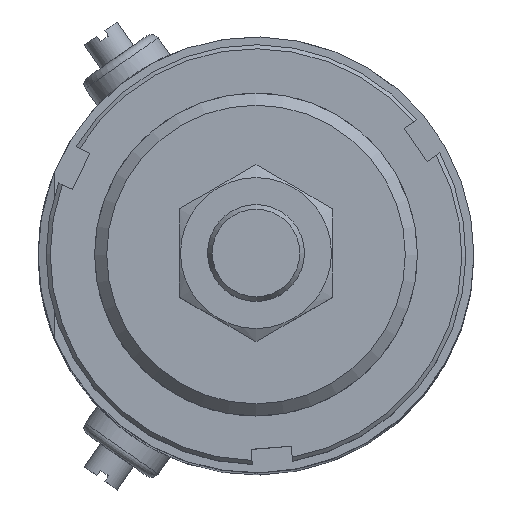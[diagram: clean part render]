
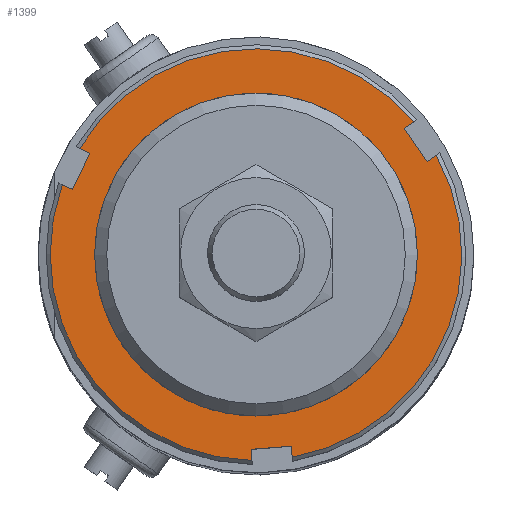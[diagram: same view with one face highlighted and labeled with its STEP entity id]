
A CAD part, top view. The second image highlights one B-rep face of the part: STEP entity #1399.
In plain terms, the highlighted planar face has unit normal (0, 0, 1).
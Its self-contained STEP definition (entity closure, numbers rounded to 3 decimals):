
#136=LINE('',#2399,#200);
#140=LINE('',#2410,#204);
#142=LINE('',#2423,#206);
#146=LINE('',#2436,#210);
#150=LINE('',#2447,#214);
#152=LINE('',#2460,#216);
#157=LINE('',#2489,#221);
#158=LINE('',#2491,#222);
#159=LINE('',#2493,#223);
#200=VECTOR('',#1917,1.377);
#204=VECTOR('',#1923,5.);
#206=VECTOR('',#1927,1.377);
#210=VECTOR('',#1933,1.377);
#214=VECTOR('',#1939,5.);
#216=VECTOR('',#1943,1.377);
#221=VECTOR('',#1972,1.377);
#222=VECTOR('',#1973,5.);
#223=VECTOR('',#1974,1.377);
#286=PLANE('',#1574);
#347=FACE_BOUND('',#564,.T.);
#348=FACE_BOUND('',#565,.T.);
#564=EDGE_LOOP('',(#1234));
#565=EDGE_LOOP('',(#1235,#1236,#1237,#1238,#1239,#1240,#1241,#1242,#1243,
#1244,#1245,#1246));
#643=CIRCLE('',#1575,20.);
#644=CIRCLE('',#1576,25.5);
#645=CIRCLE('',#1577,25.5);
#646=CIRCLE('',#1578,25.5);
#745=VERTEX_POINT('',#2396);
#746=VERTEX_POINT('',#2398);
#749=VERTEX_POINT('',#2408);
#753=VERTEX_POINT('',#2419);
#757=VERTEX_POINT('',#2433);
#758=VERTEX_POINT('',#2435);
#761=VERTEX_POINT('',#2445);
#765=VERTEX_POINT('',#2456);
#772=VERTEX_POINT('',#2484);
#773=VERTEX_POINT('',#2486);
#774=VERTEX_POINT('',#2488);
#775=VERTEX_POINT('',#2490);
#776=VERTEX_POINT('',#2492);
#898=EDGE_CURVE('',#746,#745,#136,.T.);
#903=EDGE_CURVE('',#745,#749,#140,.T.);
#907=EDGE_CURVE('',#749,#753,#142,.T.);
#912=EDGE_CURVE('',#758,#757,#146,.T.);
#917=EDGE_CURVE('',#757,#761,#150,.T.);
#921=EDGE_CURVE('',#761,#765,#152,.T.);
#933=EDGE_CURVE('',#772,#772,#643,.T.);
#934=EDGE_CURVE('',#773,#753,#644,.T.);
#935=EDGE_CURVE('',#773,#774,#157,.T.);
#936=EDGE_CURVE('',#774,#775,#158,.T.);
#937=EDGE_CURVE('',#775,#776,#159,.T.);
#938=EDGE_CURVE('',#758,#776,#645,.T.);
#939=EDGE_CURVE('',#746,#765,#646,.T.);
#1234=ORIENTED_EDGE('',*,*,#933,.T.);
#1235=ORIENTED_EDGE('',*,*,#898,.T.);
#1236=ORIENTED_EDGE('',*,*,#903,.T.);
#1237=ORIENTED_EDGE('',*,*,#907,.T.);
#1238=ORIENTED_EDGE('',*,*,#934,.F.);
#1239=ORIENTED_EDGE('',*,*,#935,.T.);
#1240=ORIENTED_EDGE('',*,*,#936,.T.);
#1241=ORIENTED_EDGE('',*,*,#937,.T.);
#1242=ORIENTED_EDGE('',*,*,#938,.F.);
#1243=ORIENTED_EDGE('',*,*,#912,.T.);
#1244=ORIENTED_EDGE('',*,*,#917,.T.);
#1245=ORIENTED_EDGE('',*,*,#921,.T.);
#1246=ORIENTED_EDGE('',*,*,#939,.F.);
#1399=ADVANCED_FACE('',(#347,#348),#286,.T.);
#1574=AXIS2_PLACEMENT_3D('',#2483,#1966,#1967);
#1575=AXIS2_PLACEMENT_3D('',#2485,#1968,#1969);
#1576=AXIS2_PLACEMENT_3D('',#2487,#1970,#1971);
#1577=AXIS2_PLACEMENT_3D('',#2494,#1975,#1976);
#1578=AXIS2_PLACEMENT_3D('',#2495,#1977,#1978);
#1917=DIRECTION('',(0.866,-0.5,0.));
#1923=DIRECTION('',(-0.5,-0.866,0.));
#1927=DIRECTION('',(-0.866,0.5,0.));
#1933=DIRECTION('',(-0.866,-0.5,0.));
#1939=DIRECTION('',(-0.5,0.866,0.));
#1943=DIRECTION('',(0.866,0.5,0.));
#1966=DIRECTION('center_axis',(0.,0.,1.));
#1967=DIRECTION('ref_axis',(1.,0.,0.));
#1968=DIRECTION('center_axis',(0.,0.,-1.));
#1969=DIRECTION('ref_axis',(-1.,0.,0.));
#1970=DIRECTION('center_axis',(0.,0.,-1.));
#1971=DIRECTION('ref_axis',(-1.,0.,0.));
#1972=DIRECTION('',(0.,1.,0.));
#1973=DIRECTION('',(1.,0.,0.));
#1974=DIRECTION('',(0.,-1.,0.));
#1975=DIRECTION('center_axis',(0.,0.,-1.));
#1976=DIRECTION('ref_axis',(-1.,0.,0.));
#1977=DIRECTION('center_axis',(0.,0.,-1.));
#1978=DIRECTION('ref_axis',(-1.,0.,0.));
#2396=CARTESIAN_POINT('',(-19.535,14.165,9.));
#2398=CARTESIAN_POINT('',(-20.727,14.854,9.));
#2399=CARTESIAN_POINT('',(-3.758,5.056,9.));
#2408=CARTESIAN_POINT('',(-22.035,9.835,9.));
#2410=CARTESIAN_POINT('',(-26.794,1.591,9.));
#2419=CARTESIAN_POINT('',(-23.227,10.524,9.));
#2423=CARTESIAN_POINT('',(-7.072,1.196,9.));
#2433=CARTESIAN_POINT('',(22.035,9.835,9.));
#2435=CARTESIAN_POINT('',(23.227,10.524,9.));
#2436=CARTESIAN_POINT('',(6.258,0.726,9.));
#2445=CARTESIAN_POINT('',(19.535,14.165,9.));
#2447=CARTESIAN_POINT('',(25.544,3.756,9.));
#2456=CARTESIAN_POINT('',(20.727,14.854,9.));
#2460=CARTESIAN_POINT('',(4.572,5.526,9.));
#2483=CARTESIAN_POINT('Origin',(0.,-24.87,
9.));
#2484=CARTESIAN_POINT('',(20.,0.,9.));
#2485=CARTESIAN_POINT('Origin',(0.,0.,9.));
#2486=CARTESIAN_POINT('',(-2.5,-25.377,9.));
#2487=CARTESIAN_POINT('Origin',(0.,0.,9.));
#2488=CARTESIAN_POINT('',(-2.5,-24.,9.));
#2489=CARTESIAN_POINT('',(-2.5,-24.435,9.));
#2490=CARTESIAN_POINT('',(2.5,-24.,9.));
#2491=CARTESIAN_POINT('',(1.25,-24.,9.));
#2492=CARTESIAN_POINT('',(2.5,-25.377,9.));
#2493=CARTESIAN_POINT('',(2.5,-25.375,9.));
#2494=CARTESIAN_POINT('Origin',(0.,0.,9.));
#2495=CARTESIAN_POINT('Origin',(0.,0.,9.));
